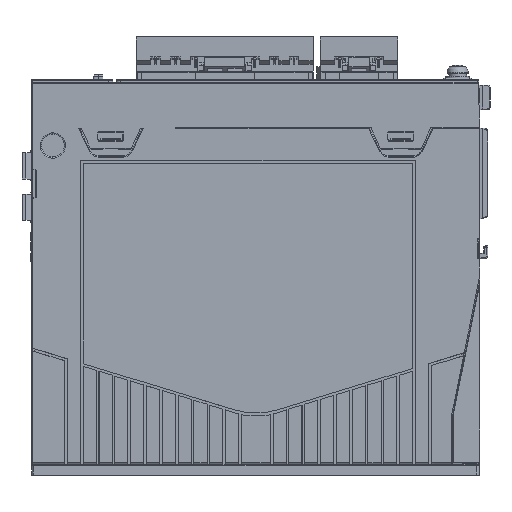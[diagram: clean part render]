
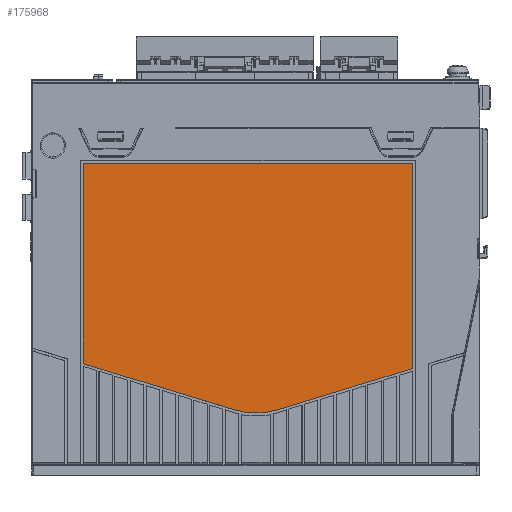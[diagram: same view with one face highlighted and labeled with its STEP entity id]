
A CAD part, left-side view. The second image highlights one B-rep face of the part: STEP entity #175968.
In plain terms, the highlighted planar face has unit normal (-1, 0, 0).
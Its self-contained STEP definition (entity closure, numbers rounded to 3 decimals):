
#70935=CARTESIAN_POINT('',(0.2,25.8,40.662));
#70936=DIRECTION('',(1.,0.,0.));
#70937=DIRECTION('',(0.,-1.,0.));
#70938=AXIS2_PLACEMENT_3D('',#70935,#70936,#70937);
#70940=DIRECTION('',(0.,0.956,-0.292));
#70941=VECTOR('',#70940,53.131);
#70942=CARTESIAN_POINT('',(0.2,25.714,
40.38));
#70943=LINE('',#70942,#70941);
#70944=CARTESIAN_POINT('',(0.2,85.001,
52.572));
#70945=DIRECTION('',(1.,0.,0.));
#70946=DIRECTION('',(0.,-0.292,-0.956));
#70947=AXIS2_PLACEMENT_3D('',#70944,#70945,#70946);
#70949=DIRECTION('',(0.,0.956,0.292));
#70950=VECTOR('',#70949,59.404);
#70951=CARTESIAN_POINT('',(0.2,93.477,24.844));
#70952=LINE('',#70951,#70950);
#70953=CARTESIAN_POINT('',(0.2,150.2,42.492));
#70954=DIRECTION('',(1.,0.,0.));
#70955=DIRECTION('',(0.,0.292,-0.956));
#70956=AXIS2_PLACEMENT_3D('',#70953,#70954,#70955);
#70958=DIRECTION('',(0.,0.,1.));
#70959=VECTOR('',#70958,75.703);
#70960=CARTESIAN_POINT('',(0.2,150.495,
42.492));
#70961=LINE('',#70960,#70959);
#70966=DIRECTION('',(0.,0.,1.));
#70967=VECTOR('',#70966,77.533);
#70968=CARTESIAN_POINT('',(0.2,25.505,40.662));
#70969=LINE('',#70968,#70967);
#70974=DIRECTION('',(0.,1.,0.));
#70975=VECTOR('',#70974,124.99);
#70976=CARTESIAN_POINT('',(0.2,25.505,
118.195));
#70977=LINE('',#70976,#70975);
#70978=CARTESIAN_POINT('',(0.2,150.495,
118.195));
#85051=VERTEX_POINT('',#70978);
#85052=CARTESIAN_POINT('',(0.2,150.495,
42.492));
#85053=VERTEX_POINT('',#85052);
#85054=CARTESIAN_POINT('',(0.2,150.286,
42.21));
#85055=VERTEX_POINT('',#85054);
#85056=CARTESIAN_POINT('',(0.2,25.505,
40.662));
#85057=CARTESIAN_POINT('',(0.2,25.714,
40.38));
#85058=VERTEX_POINT('',#85056);
#85059=VERTEX_POINT('',#85057);
#85060=CARTESIAN_POINT('',(0.2,76.523,24.844));
#85061=VERTEX_POINT('',#85060);
#85062=CARTESIAN_POINT('',(0.2,93.477,
24.844));
#85063=VERTEX_POINT('',#85062);
#85064=CARTESIAN_POINT('',(0.2,25.505,
118.195));
#85065=VERTEX_POINT('',#85064);
#175947=CARTESIAN_POINT('',(0.2,88.,70.886));
#175948=DIRECTION('',(1.,0.,0.));
#175949=DIRECTION('',(0.,0.,1.));
#175950=AXIS2_PLACEMENT_3D('',#175947,#175948,#175949);
#175951=PLANE('',#175950);
#175953=ORIENTED_EDGE('',*,*,#175952,.T.);
#175955=ORIENTED_EDGE('',*,*,#175954,.T.);
#175957=ORIENTED_EDGE('',*,*,#175956,.T.);
#175959=ORIENTED_EDGE('',*,*,#175958,.T.);
#175960=ORIENTED_EDGE('',*,*,#175931,.T.);
#175961=ORIENTED_EDGE('',*,*,#175914,.T.);
#175963=ORIENTED_EDGE('',*,*,#175962,.F.);
#175965=ORIENTED_EDGE('',*,*,#175964,.F.);
#175966=EDGE_LOOP('',(#175953,#175955,#175957,#175959,#175960,#175961,#175963,
#175965));
#175967=FACE_OUTER_BOUND('',#175966,.F.);
#70939=CIRCLE('',#70938,0.295);
#70948=CIRCLE('',#70947,28.995);
#70957=CIRCLE('',#70956,0.295);
#175914=EDGE_CURVE('',#85053,#85051,#70961,.T.);
#175931=EDGE_CURVE('',#85055,#85053,#70957,.T.);
#175952=EDGE_CURVE('',#85058,#85059,#70939,.T.);
#175954=EDGE_CURVE('',#85059,#85061,#70943,.T.);
#175956=EDGE_CURVE('',#85061,#85063,#70948,.T.);
#175958=EDGE_CURVE('',#85063,#85055,#70952,.T.);
#175962=EDGE_CURVE('',#85065,#85051,#70977,.T.);
#175964=EDGE_CURVE('',#85058,#85065,#70969,.T.);
#175968=ADVANCED_FACE('',(#175967),#175951,.F.);
